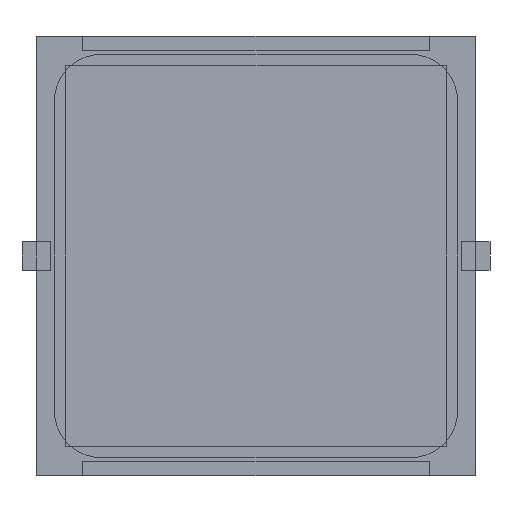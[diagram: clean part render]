
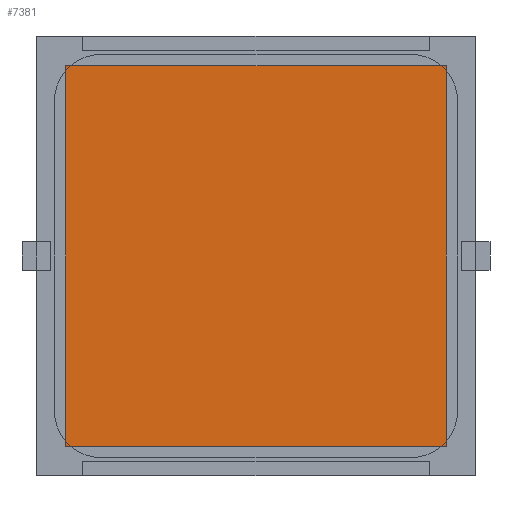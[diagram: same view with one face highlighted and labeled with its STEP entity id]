
A CAD part, front view. The second image highlights one B-rep face of the part: STEP entity #7381.
In plain terms, the highlighted planar face has unit normal (0, -1, 0).
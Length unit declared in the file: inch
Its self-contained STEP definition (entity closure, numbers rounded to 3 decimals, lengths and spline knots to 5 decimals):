
#53 = CARTESIAN_POINT ( 'NONE',  ( 0.5315, -0.005, 0.5315 ) ) ;
#193 = VERTEX_POINT ( 'NONE', #808 ) ;
#206 = ORIENTED_EDGE ( 'NONE', *, *, #1635, .T. ) ;
#407 = VERTEX_POINT ( 'NONE', #3714 ) ;
#487 = EDGE_CURVE ( 'NONE', #193, #3115, #5232, .T. ) ;
#588 = DIRECTION ( 'NONE',  ( 0., 0., 1. ) ) ;
#646 = DIRECTION ( 'NONE',  ( 0., 0., -1. ) ) ;
#698 = FACE_OUTER_BOUND ( 'NONE', #3234, .T. ) ;
#808 = CARTESIAN_POINT ( 'NONE',  ( 0.5315, -0.005, -0.5315 ) ) ;
#1587 = VECTOR ( 'NONE', #2113, 39.37008 ) ;
#1635 = EDGE_CURVE ( 'NONE', #407, #3311, #5119, .T. ) ;
#1780 = PLANE ( 'NONE',  #2307 ) ;
#2075 = CARTESIAN_POINT ( 'NONE',  ( 0.5315, -0.005, -0.5315 ) ) ;
#2113 = DIRECTION ( 'NONE',  ( 0., 0., 1. ) ) ;
#2241 = CARTESIAN_POINT ( 'NONE',  ( 0.5315, -0.005, 0.5315 ) ) ;
#2307 = AXIS2_PLACEMENT_3D ( 'NONE', #53, #3639, #588 ) ;
#3082 = CARTESIAN_POINT ( 'NONE',  ( -0.5315, -0.005, -0.5315 ) ) ;
#3115 = VERTEX_POINT ( 'NONE', #3980 ) ;
#3234 = EDGE_LOOP ( 'NONE', ( #7471, #3629, #206, #6707 ) ) ;
#3276 = VECTOR ( 'NONE', #646, 39.37008 ) ;
#3289 = VECTOR ( 'NONE', #5990, 39.37008 ) ;
#3311 = VERTEX_POINT ( 'NONE', #3082 ) ;
#3471 = LINE ( 'NONE', #2241, #3289 ) ;
#3629 = ORIENTED_EDGE ( 'NONE', *, *, #6488, .T. ) ;
#3639 = DIRECTION ( 'NONE',  ( 0., -1., 0. ) ) ;
#3714 = CARTESIAN_POINT ( 'NONE',  ( -0.5315, -0.005, 0.5315 ) ) ;
#3980 = CARTESIAN_POINT ( 'NONE',  ( 0.5315, -0.005, 0.5315 ) ) ;
#4494 = EDGE_CURVE ( 'NONE', #3311, #193, #7565, .T. ) ;
#4508 = CARTESIAN_POINT ( 'NONE',  ( 0.5315, -0.005, -0.5315 ) ) ;
#4513 = DIRECTION ( 'NONE',  ( 1., 0., 0. ) ) ;
#5119 = LINE ( 'NONE', #6781, #3276 ) ;
#5232 = LINE ( 'NONE', #4508, #1587 ) ;
#5990 = DIRECTION ( 'NONE',  ( -1., 0., 0. ) ) ;
#6185 = VECTOR ( 'NONE', #4513, 39.37008 ) ;
#6488 = EDGE_CURVE ( 'NONE', #3115, #407, #3471, .T. ) ;
#6707 = ORIENTED_EDGE ( 'NONE', *, *, #4494, .T. ) ;
#6781 = CARTESIAN_POINT ( 'NONE',  ( -0.5315, -0.005, -0.5315 ) ) ;
#7381 = ADVANCED_FACE ( 'NONE', ( #698 ), #1780, .T. ) ;
#7471 = ORIENTED_EDGE ( 'NONE', *, *, #487, .T. ) ;
#7565 = LINE ( 'NONE', #2075, #6185 ) ;
